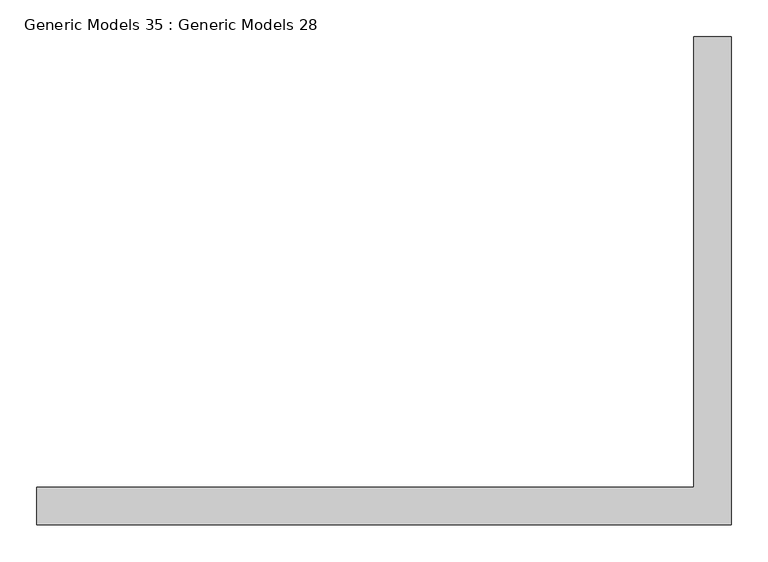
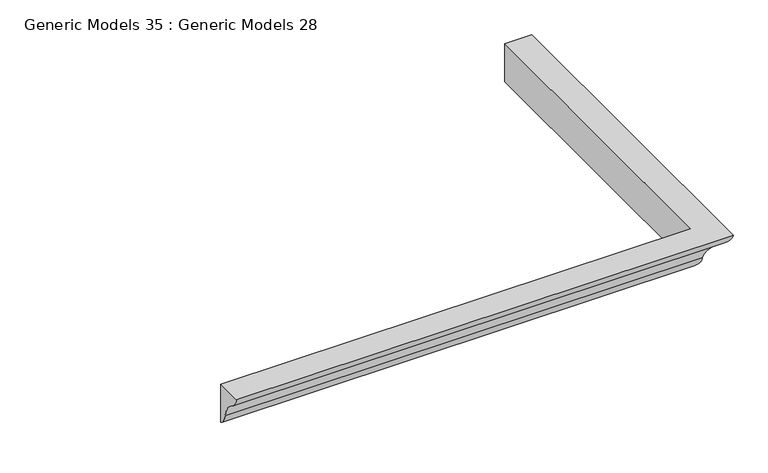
"""IFC4 building model written with IfcOpenShell, lengths in millimetres: proxy geometry, Generic Models 35 : Generic Models 28."""

from ifc_helpers import new_model, si_unit, frame, origin, place, context, project, spatial, polyline, circle_curve, ellipse_curve, source, transform, mapped, element, save
from ifc_brep_helpers import plane_surface, cylinder_surface, revolved_surface, advanced_brep


def generic_models_35_generic_models_28_821b1100(model_context):
    return source(origin(), model_context, "Body", "AdvancedBrep", [
        advanced_brep(
        [(736.4972395, 9436.1, 5688.0125), (736.4972395, 9422.010615, 5709.1465775), (736.4972395, 9399.389385, 5743.0784225), (736.4972395, 9385.3, 5764.2125), (736.4972395, 9436.1, 5764.2125), (1625.4972395, 10045.7, 5688.0125), (1625.4972395, 10045.7, 5764.2125), (1676.2972395, 10045.7, 5764.2125), (1662.2078545, 10045.7, 5743.0784225), (1639.5866245, 10045.7, 5709.1465775), (1625.4972395, 9436.1, 5688.0125), (1639.5866245, 9422.010615, 5709.1465775), (1662.2078545, 9399.389385, 5743.0784225), (1676.2972395, 9385.3, 5764.2125), (1625.4972395, 9436.1, 5764.2125)],
        [
            (0, 1, circle_curve(frame((736.4972395, 9450.0789399, 5712.5952937), z_axis=(-1.0, 0.0, 0.0), x_axis=(0.0, 1.0, 0.0)), 28.2794007)),
            (1, 2, circle_curve(frame((736.4972395, 9376.9454802, 5703.6094868), z_axis=(1.0, 0.0, 0.0), x_axis=(0.0, 1.0, 0.0)), 45.4040279)),
            (2, 3, circle_curve(frame((736.4972395, 9413.3683249, 5767.6612162), z_axis=(-1.0, 0.0, 0.0), x_axis=(0.0, 1.0, 0.0)), 28.2794007)),
            (3, 4),
            (4, 0),
            (5, 6),
            (6, 7),
            (7, 8, circle_curve(frame((1648.2289146, 10045.7, 5767.6612162), z_axis=(0.0, 1.0, 0.0), x_axis=(-1.0, 0.0, 0.0)), 28.2794007)),
            (8, 9, circle_curve(frame((1684.6517592, 10045.7, 5703.6094868), z_axis=(0.0, -1.0, 0.0), x_axis=(-1.0, 0.0, 0.0)), 45.4040279)),
            (9, 5, circle_curve(frame((1611.5182996, 10045.7, 5712.5952937), z_axis=(0.0, 1.0, 0.0), x_axis=(-1.0, 0.0, 0.0)), 28.2794007)),
            (0, 10),
            (10, 11, ellipse_curve(frame((1611.5182996, 9450.0789399, 5712.5952937), z_axis=(-0.7071067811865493, -0.7071067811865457, 0.0), x_axis=(-0.7071067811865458, 0.7071067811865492, 0.0)), 39.993112, 28.2794007)),
            (11, 1),
            (11, 12, ellipse_curve(frame((1684.6517592, 9376.9454802, 5703.6094868), z_axis=(0.7071067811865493, 0.7071067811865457, 0.0), x_axis=(0.7071067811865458, -0.7071067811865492, 0.0)), 64.210992, 45.4040279)),
            (12, 2),
            (12, 13, ellipse_curve(frame((1648.2289146, 9413.3683249, 5767.6612162), z_axis=(-0.7071067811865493, -0.7071067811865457, 0.0), x_axis=(-0.7071067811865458, 0.7071067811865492, 0.0)), 39.993112, 28.2794007)),
            (13, 3),
            (4, 14),
            (14, 10),
            (13, 7),
            (6, 14),
            (10, 5),
            (9, 11),
            (8, 12),
        ],
        [
            plane_surface(frame((736.4972395, 9436.1, 5688.0125), z_axis=(-1.0, 0.0, 0.0), x_axis=(0.0, 0.0, 1.0))),
            plane_surface(frame((1625.4972395, 10045.7, 5688.0125), z_axis=(0.0, 1.0, 0.0), x_axis=(0.0, 0.0, 1.0))),
            cylinder_surface(frame((736.4972395, 9450.0789399, 5712.5952937), z_axis=(-1.0, 0.0, 0.0), x_axis=(0.0, 1.0, 0.0)), 28.2794007),
            revolved_surface(polyline([(1730.055787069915, 9422.3495081, 5703.6094868), (736.4972395, 9422.3495081, 5703.6094868)]), (736.4972395, 9376.9454802, 5703.6094868), (1.0, 0.0, 0.0)),
            cylinder_surface(frame((736.4972395, 9413.3683249, 5767.6612162), z_axis=(-1.0, 0.0, 0.0), x_axis=(0.0, 1.0, 0.0)), 28.2794007),
            plane_surface(frame((736.4972395, 9436.1, 5764.2125), z_axis=(0.0, 1.0, 0.0), x_axis=(1.0, 0.0, 0.0))),
            plane_surface(frame((736.4972395, 9385.3, 5764.2125), z_axis=(0.0, 0.0, 1.0), x_axis=(1.0, 0.0, 0.0))),
            cylinder_surface(frame((1611.5182996, 9436.1, 5712.5952937), z_axis=(0.0, -1.0, 0.0), x_axis=(-1.0, 0.0, 0.0)), 28.2794007),
            revolved_surface(polyline([(1639.2477313, 10045.7, 5703.6094868), (1639.2477313, 9331.541452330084, 5703.6094868)]), (1684.6517592, 9436.1, 5703.6094868), (0.0, 1.0, 0.0)),
            cylinder_surface(frame((1648.2289146, 9436.1, 5767.6612162), z_axis=(0.0, -1.0, 0.0), x_axis=(-1.0, 0.0, 0.0)), 28.2794007),
            plane_surface(frame((1625.4972395, 9436.1, 5764.2125), z_axis=(-1.0, 0.0, 0.0), x_axis=(0.0, 1.0, 0.0))),
        ],
        [
            (0, [[1, 2, 3, 4, 5]]),
            (1, [[6, 7, 8, 9, 10]]),
            (2, [[-1, 11, 12, 13]]),
            (3, [[-2, -13, 14, 15]]),
            (4, [[-3, -15, 16, 17]]),
            (5, [[-5, 18, 19, -11]]),
            (6, [[-4, -17, 20, -7, 21, -18]]),
            (7, [[-12, 22, -10, 23]]),
            (8, [[-14, -23, -9, 24]]),
            (9, [[-16, -24, -8, -20]]),
            (10, [[-19, -21, -6, -22]]),
        ],
    ),
    ])


if __name__ == "__main__":
    model = new_model("IFC4")
    model_context = context("Model", 3, world=origin())
    ifc_project = project(units=[si_unit("LENGTHUNIT", "METRE", prefix="MILLI")], contexts=[model_context])
    site = spatial("IfcSite", under=ifc_project)
    building = spatial("IfcBuilding", under=site)
    placement = place(None, origin())
    generic_models_35_generic_models_28_shape = generic_models_35_generic_models_28_821b1100(model_context)
    element("IfcBuildingElementProxy", 1, Name="Generic Models 35 : Generic Models 28", ObjectType="Generic Models 35 : Generic Models 28", at=placement, inside=building, context=model_context, shape_type="MappedRepresentation", body=[
        mapped(generic_models_35_generic_models_28_shape, transform((0.0, 0.0, 0.0), x_axis=(1.0, 0.0, 0.0), y_axis=(0.0, 1.0, 0.0), z_axis=(0.0, 0.0, 1.0))),
    ])
    save(model, "model.ifc")
